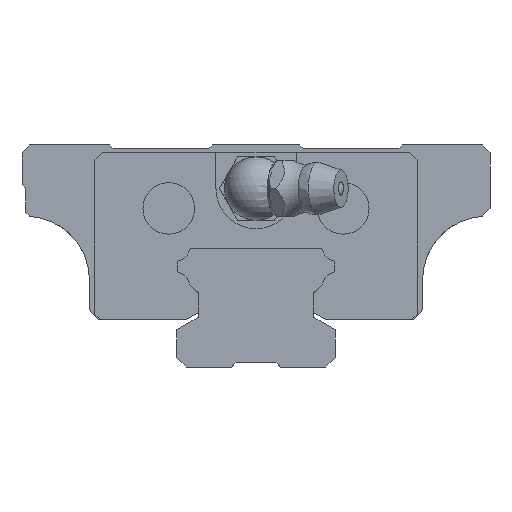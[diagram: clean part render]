
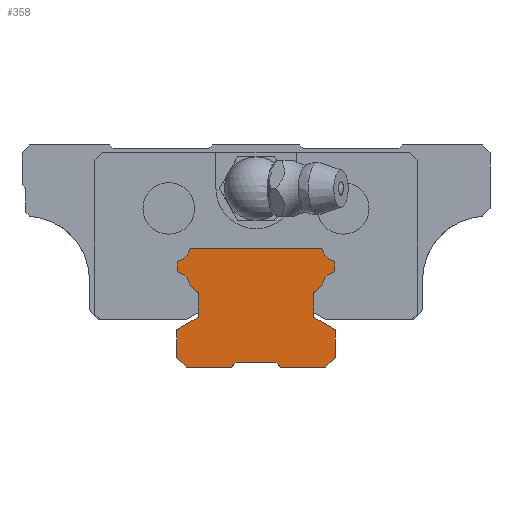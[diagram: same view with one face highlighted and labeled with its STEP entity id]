
A CAD part, front view. The second image highlights one B-rep face of the part: STEP entity #358.
In plain terms, the highlighted planar face has unit normal (0, -1, 0).
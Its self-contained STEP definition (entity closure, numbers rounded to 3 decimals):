
#250=CIRCLE('',#3375,1.8);
#252=CIRCLE('',#3381,1.8);
#255=CIRCLE('',#3407,1.8);
#257=CIRCLE('',#3413,1.8);
#358=ADVANCED_FACE('',(#668),#531,.T.);
#531=PLANE('',#3417);
#668=FACE_OUTER_BOUND('',#830,.T.);
#830=EDGE_LOOP('',(#1186,#1187,#1188,#1189,#1190,#1191,#1192,#1193,#1194,
#1195,#1196,#1197,#1198,#1199,#1200,#1201,#1202,#1203,#1204,#1205,#1206,
#1207,#1208,#1209,#1210,#1211,#1212,#1213));
#1186=ORIENTED_EDGE('',*,*,#2234,.T.);
#1187=ORIENTED_EDGE('',*,*,#2328,.T.);
#1188=ORIENTED_EDGE('',*,*,#2325,.T.);
#1189=ORIENTED_EDGE('',*,*,#2322,.T.);
#1190=ORIENTED_EDGE('',*,*,#2319,.F.);
#1191=ORIENTED_EDGE('',*,*,#2316,.F.);
#1192=ORIENTED_EDGE('',*,*,#2313,.T.);
#1193=ORIENTED_EDGE('',*,*,#2307,.T.);
#1194=ORIENTED_EDGE('',*,*,#2301,.T.);
#1195=ORIENTED_EDGE('',*,*,#2296,.F.);
#1196=ORIENTED_EDGE('',*,*,#2293,.T.);
#1197=ORIENTED_EDGE('',*,*,#2290,.F.);
#1198=ORIENTED_EDGE('',*,*,#2287,.F.);
#1199=ORIENTED_EDGE('',*,*,#2284,.F.);
#1200=ORIENTED_EDGE('',*,*,#2281,.F.);
#1201=ORIENTED_EDGE('',*,*,#2278,.F.);
#1202=ORIENTED_EDGE('',*,*,#2275,.F.);
#1203=ORIENTED_EDGE('',*,*,#2272,.F.);
#1204=ORIENTED_EDGE('',*,*,#2269,.T.);
#1205=ORIENTED_EDGE('',*,*,#2266,.F.);
#1206=ORIENTED_EDGE('',*,*,#2263,.T.);
#1207=ORIENTED_EDGE('',*,*,#2260,.F.);
#1208=ORIENTED_EDGE('',*,*,#2252,.F.);
#1209=ORIENTED_EDGE('',*,*,#2342,.F.);
#1210=ORIENTED_EDGE('',*,*,#2339,.F.);
#1211=ORIENTED_EDGE('',*,*,#2336,.T.);
#1212=ORIENTED_EDGE('',*,*,#2333,.T.);
#1213=ORIENTED_EDGE('',*,*,#2330,.F.);
#1922=VERTEX_POINT('',#4522);
#1923=VERTEX_POINT('',#4524);
#1940=VERTEX_POINT('',#4564);
#1941=VERTEX_POINT('',#4565);
#1948=VERTEX_POINT('',#4581);
#1950=VERTEX_POINT('',#4587);
#1952=VERTEX_POINT('',#4593);
#1954=VERTEX_POINT('',#4599);
#1956=VERTEX_POINT('',#4605);
#1958=VERTEX_POINT('',#4611);
#1960=VERTEX_POINT('',#4617);
#1962=VERTEX_POINT('',#4623);
#1964=VERTEX_POINT('',#4629);
#1966=VERTEX_POINT('',#4635);
#1968=VERTEX_POINT('',#4641);
#1970=VERTEX_POINT('',#4647);
#1972=VERTEX_POINT('',#4653);
#1974=VERTEX_POINT('',#4661);
#1977=VERTEX_POINT('',#4671);
#1978=VERTEX_POINT('',#4679);
#1980=VERTEX_POINT('',#4685);
#1982=VERTEX_POINT('',#4691);
#1984=VERTEX_POINT('',#4697);
#1986=VERTEX_POINT('',#4703);
#1988=VERTEX_POINT('',#4712);
#1990=VERTEX_POINT('',#4718);
#1992=VERTEX_POINT('',#4724);
#1994=VERTEX_POINT('',#4730);
#2234=EDGE_CURVE('',#1923,#1922,#2689,.T.);
#2252=EDGE_CURVE('',#1940,#1941,#2700,.T.);
#2260=EDGE_CURVE('',#1941,#1948,#2704,.T.);
#2263=EDGE_CURVE('',#1950,#1948,#2707,.T.);
#2266=EDGE_CURVE('',#1950,#1952,#250,.T.);
#2269=EDGE_CURVE('',#1954,#1952,#2711,.T.);
#2272=EDGE_CURVE('',#1954,#1956,#2714,.T.);
#2275=EDGE_CURVE('',#1956,#1958,#2717,.T.);
#2278=EDGE_CURVE('',#1958,#1960,#252,.T.);
#2281=EDGE_CURVE('',#1960,#1962,#2721,.T.);
#2284=EDGE_CURVE('',#1962,#1964,#2724,.T.);
#2287=EDGE_CURVE('',#1964,#1966,#2727,.T.);
#2290=EDGE_CURVE('',#1966,#1968,#2730,.T.);
#2293=EDGE_CURVE('',#1970,#1968,#2733,.T.);
#2296=EDGE_CURVE('',#1970,#1972,#2736,.T.);
#2301=EDGE_CURVE('',#1974,#1972,#2740,.T.);
#2307=EDGE_CURVE('',#1977,#1974,#2742,.T.);
#2313=EDGE_CURVE('',#1978,#1977,#2744,.T.);
#2316=EDGE_CURVE('',#1978,#1980,#2747,.T.);
#2319=EDGE_CURVE('',#1980,#1982,#2750,.T.);
#2322=EDGE_CURVE('',#1984,#1982,#2753,.T.);
#2325=EDGE_CURVE('',#1986,#1984,#2756,.T.);
#2328=EDGE_CURVE('',#1922,#1986,#2759,.T.);
#2330=EDGE_CURVE('',#1923,#1988,#255,.T.);
#2333=EDGE_CURVE('',#1990,#1988,#2762,.T.);
#2336=EDGE_CURVE('',#1992,#1990,#2765,.T.);
#2339=EDGE_CURVE('',#1992,#1994,#2768,.T.);
#2342=EDGE_CURVE('',#1994,#1940,#257,.T.);
#2689=LINE('',#4523,#3023);
#2700=LINE('',#4563,#3034);
#2704=LINE('',#4580,#3038);
#2707=LINE('',#4586,#3041);
#2711=LINE('',#4598,#3045);
#2714=LINE('',#4604,#3048);
#2717=LINE('',#4610,#3051);
#2721=LINE('',#4622,#3055);
#2724=LINE('',#4628,#3058);
#2727=LINE('',#4634,#3061);
#2730=LINE('',#4640,#3064);
#2733=LINE('',#4646,#3067);
#2736=LINE('',#4652,#3070);
#2740=LINE('',#4660,#3074);
#2742=LINE('',#4670,#3076);
#2744=LINE('',#4678,#3078);
#2747=LINE('',#4684,#3081);
#2750=LINE('',#4690,#3084);
#2753=LINE('',#4696,#3087);
#2756=LINE('',#4702,#3090);
#2759=LINE('',#4708,#3093);
#2762=LINE('',#4717,#3096);
#2765=LINE('',#4723,#3099);
#2768=LINE('',#4729,#3102);
#3023=VECTOR('',#3635,1.);
#3034=VECTOR('',#3670,1.);
#3038=VECTOR('',#3684,1.);
#3041=VECTOR('',#3689,1.);
#3045=VECTOR('',#3701,1.);
#3048=VECTOR('',#3706,1.);
#3051=VECTOR('',#3711,1.);
#3055=VECTOR('',#3723,1.);
#3058=VECTOR('',#3728,1.);
#3061=VECTOR('',#3733,1.);
#3064=VECTOR('',#3738,1.);
#3067=VECTOR('',#3743,1.);
#3070=VECTOR('',#3748,1.);
#3074=VECTOR('',#3756,1.);
#3076=VECTOR('',#3768,1.);
#3078=VECTOR('',#3780,1.);
#3081=VECTOR('',#3785,1.);
#3084=VECTOR('',#3790,1.);
#3087=VECTOR('',#3795,1.);
#3090=VECTOR('',#3800,1.);
#3093=VECTOR('',#3805,1.);
#3096=VECTOR('',#3816,1.);
#3099=VECTOR('',#3821,1.);
#3102=VECTOR('',#3826,1.);
#3375=AXIS2_PLACEMENT_3D('',#4592,#3694,#3695);
#3381=AXIS2_PLACEMENT_3D('',#4616,#3716,#3717);
#3407=AXIS2_PLACEMENT_3D('',#4711,#3809,#3810);
#3413=AXIS2_PLACEMENT_3D('',#4735,#3831,#3832);
#3417=AXIS2_PLACEMENT_3D('',#4739,#3839,#3840);
#3635=DIRECTION('',(0.707,0.,-0.707));
#3670=DIRECTION('',(0.707,0.,0.707));
#3684=DIRECTION('',(1.,0.,0.));
#3689=DIRECTION('',(-0.707,0.,0.707));
#3694=DIRECTION('',(0.,-1.,0.));
#3695=DIRECTION('',(1.,0.,0.));
#3701=DIRECTION('',(-0.707,0.,0.707));
#3706=DIRECTION('',(0.,0.,-1.));
#3711=DIRECTION('',(-0.707,0.,-0.707));
#3716=DIRECTION('',(0.,-1.,0.));
#3717=DIRECTION('',(1.,0.,0.));
#3723=DIRECTION('',(-0.707,0.,-0.707));
#3728=DIRECTION('',(0.,0.,-1.));
#3733=DIRECTION('',(0.866,0.,-0.5));
#3738=DIRECTION('',(0.,0.,-1.));
#3743=DIRECTION('',(0.707,0.,0.707));
#3748=DIRECTION('',(-1.,0.,0.));
#3756=DIRECTION('',(0.707,0.,-0.707));
#3768=DIRECTION('',(1.,0.,0.));
#3780=DIRECTION('',(0.707,0.,0.707));
#3785=DIRECTION('',(-1.,0.,0.));
#3790=DIRECTION('',(-0.707,0.,0.707));
#3795=DIRECTION('',(0.,0.,-1.));
#3800=DIRECTION('',(-0.866,0.,-0.5));
#3805=DIRECTION('',(0.,0.,-1.));
#3809=DIRECTION('',(0.,-1.,0.));
#3810=DIRECTION('',(1.,0.,0.));
#3816=DIRECTION('',(0.707,0.,-0.707));
#3821=DIRECTION('',(0.,0.,-1.));
#3826=DIRECTION('',(0.707,0.,0.707));
#3831=DIRECTION('',(0.,-1.,0.));
#3832=DIRECTION('',(1.,0.,0.));
#3839=DIRECTION('',(0.,-1.,0.));
#3840=DIRECTION('',(0.,0.,-1.));
#4522=CARTESIAN_POINT('',(-7.3,-110.,8.796));
#4523=CARTESIAN_POINT('',(-8.372,-110.,9.868));
#4524=CARTESIAN_POINT('',(-8.372,-110.,9.868));
#4563=CARTESIAN_POINT('',(-8.372,-110.,14.232));
#4564=CARTESIAN_POINT('',(-8.372,-110.,14.232));
#4565=CARTESIAN_POINT('',(-8.274,-110.,14.33));
#4580=CARTESIAN_POINT('',(0.,-110.,14.33));
#4581=CARTESIAN_POINT('',(8.274,-110.,14.33));
#4586=CARTESIAN_POINT('',(8.372,-110.,14.232));
#4587=CARTESIAN_POINT('',(8.372,-110.,14.232));
#4592=CARTESIAN_POINT('',(10.145,-110.,14.545));
#4593=CARTESIAN_POINT('',(9.832,-110.,12.772));
#4598=CARTESIAN_POINT('',(9.93,-110.,12.674));
#4599=CARTESIAN_POINT('',(9.93,-110.,12.674));
#4604=CARTESIAN_POINT('',(9.93,-110.,12.674));
#4605=CARTESIAN_POINT('',(9.93,-110.,11.426));
#4610=CARTESIAN_POINT('',(9.93,-110.,11.426));
#4611=CARTESIAN_POINT('',(9.832,-110.,11.328));
#4616=CARTESIAN_POINT('',(10.145,-110.,9.555));
#4617=CARTESIAN_POINT('',(8.372,-110.,9.868));
#4622=CARTESIAN_POINT('',(8.372,-110.,9.868));
#4623=CARTESIAN_POINT('',(7.3,-110.,8.796));
#4628=CARTESIAN_POINT('',(7.3,-110.,6.236));
#4629=CARTESIAN_POINT('',(7.3,-110.,5.659));
#4634=CARTESIAN_POINT('',(7.3,-110.,5.659));
#4635=CARTESIAN_POINT('',(10.,-110.,4.1));
#4640=CARTESIAN_POINT('',(10.,-110.,4.1));
#4641=CARTESIAN_POINT('',(10.,-110.,0.6));
#4646=CARTESIAN_POINT('',(8.8,-110.,-0.6));
#4647=CARTESIAN_POINT('',(8.8,-110.,-0.6));
#4652=CARTESIAN_POINT('',(8.8,-110.,-0.6));
#4653=CARTESIAN_POINT('',(3.1,-110.,-0.6));
#4660=CARTESIAN_POINT('',(2.5,-110.,0.));
#4661=CARTESIAN_POINT('',(2.5,-110.,0.));
#4670=CARTESIAN_POINT('',(-2.5,-110.,0.));
#4671=CARTESIAN_POINT('',(-2.5,-110.,0.));
#4678=CARTESIAN_POINT('',(-3.1,-110.,-0.6));
#4679=CARTESIAN_POINT('',(-3.1,-110.,-0.6));
#4684=CARTESIAN_POINT('',(-3.1,-110.,-0.6));
#4685=CARTESIAN_POINT('',(-8.8,-110.,-0.6));
#4690=CARTESIAN_POINT('',(-8.8,-110.,-0.6));
#4691=CARTESIAN_POINT('',(-10.,-110.,0.6));
#4696=CARTESIAN_POINT('',(-10.,-110.,4.1));
#4697=CARTESIAN_POINT('',(-10.,-110.,4.1));
#4702=CARTESIAN_POINT('',(-7.3,-110.,5.659));
#4703=CARTESIAN_POINT('',(-7.3,-110.,5.659));
#4708=CARTESIAN_POINT('',(-7.3,-110.,6.236));
#4711=CARTESIAN_POINT('',(-10.145,-110.,9.555));
#4712=CARTESIAN_POINT('',(-9.832,-110.,11.328));
#4717=CARTESIAN_POINT('',(-9.93,-110.,11.426));
#4718=CARTESIAN_POINT('',(-9.93,-110.,11.426));
#4723=CARTESIAN_POINT('',(-9.93,-110.,12.674));
#4724=CARTESIAN_POINT('',(-9.93,-110.,12.674));
#4729=CARTESIAN_POINT('',(-9.93,-110.,12.674));
#4730=CARTESIAN_POINT('',(-9.832,-110.,12.772));
#4735=CARTESIAN_POINT('',(-10.145,-110.,14.545));
#4739=CARTESIAN_POINT('',(10.145,-110.,14.545));
